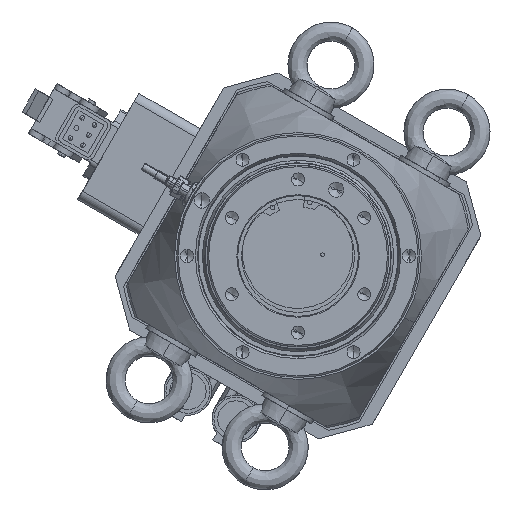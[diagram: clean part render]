
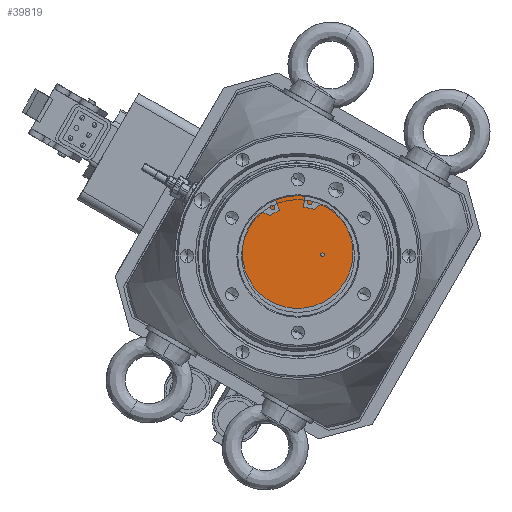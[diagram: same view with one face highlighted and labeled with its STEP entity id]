
A CAD part, front view. The second image highlights one B-rep face of the part: STEP entity #39819.
In plain terms, the highlighted planar face has unit normal (0, -1, 0).
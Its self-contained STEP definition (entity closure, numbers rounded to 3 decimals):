
#1579 = DIRECTION ( 'NONE',  ( 0., 1., 0. ) ) ;
#2160 = ORIENTED_EDGE ( 'NONE', *, *, #17254, .T. ) ;
#3389 = VERTEX_POINT ( 'NONE', #28946 ) ;
#4422 = DIRECTION ( 'NONE',  ( -0.866, 0., 0.5 ) ) ;
#10384 = CARTESIAN_POINT ( 'NONE',  ( 84.067, -247.879, 97.791 ) ) ;
#12253 = ORIENTED_EDGE ( 'NONE', *, *, #39113, .F. ) ;
#13505 = AXIS2_PLACEMENT_3D ( 'NONE', #24056, #43567, #37801 ) ;
#13736 = CARTESIAN_POINT ( 'NONE',  ( 84.067, -247.879, 97.791 ) ) ;
#14594 = DIRECTION ( 'NONE',  ( -0.866, 0., 0.5 ) ) ;
#17254 = EDGE_CURVE ( 'NONE', #36706, #42634, #48003, .T. ) ;
#17258 = VERTEX_POINT ( 'NONE', #49102 ) ;
#17450 = EDGE_LOOP ( 'NONE', ( #2160, #49158 ) ) ;
#20409 = AXIS2_PLACEMENT_3D ( 'NONE', #10384, #58333, #14594 ) ;
#21172 = DIRECTION ( 'NONE',  ( -0.866, 0., 0.5 ) ) ;
#24056 = CARTESIAN_POINT ( 'NONE',  ( 71.219, -247.879, 97.194 ) ) ;
#24765 = EDGE_LOOP ( 'NONE', ( #12253, #56279 ) ) ;
#28648 = EDGE_CURVE ( 'NONE', #42634, #36706, #55399, .T. ) ;
#28946 = CARTESIAN_POINT ( 'NONE',  ( 43.939, -247.879, 112.944 ) ) ;
#31884 = FACE_BOUND ( 'NONE', #17450, .T. ) ;
#33504 = DIRECTION ( 'NONE',  ( 0., 1., 0. ) ) ;
#35980 = AXIS2_PLACEMENT_3D ( 'NONE', #45435, #1579, #21172 ) ;
#36706 = VERTEX_POINT ( 'NONE', #49023 ) ;
#37626 = CARTESIAN_POINT ( 'NONE',  ( 83.2, -247.879, 98.291 ) ) ;
#37801 = DIRECTION ( 'NONE',  ( -0.866, 0., 0.5 ) ) ;
#39113 = EDGE_CURVE ( 'NONE', #17258, #3389, #43111, .T. ) ;
#39819 = ADVANCED_FACE ( 'NONE', ( #53258, #31884 ), #51448, .F. ) ;
#42069 = AXIS2_PLACEMENT_3D ( 'NONE', #13736, #33504, #4422 ) ;
#42634 = VERTEX_POINT ( 'NONE', #37626 ) ;
#43111 = CIRCLE ( 'NONE', #13505, 31.5 ) ;
#43567 = DIRECTION ( 'NONE',  ( 0., 1., 0. ) ) ;
#45435 = CARTESIAN_POINT ( 'NONE',  ( 71.219, -247.879, 97.194 ) ) ;
#48003 = CIRCLE ( 'NONE', #20409, 1. ) ;
#48767 = DIRECTION ( 'NONE',  ( 0., 1., 0. ) ) ;
#49023 = CARTESIAN_POINT ( 'NONE',  ( 84.933, -247.879, 97.291 ) ) ;
#49102 = CARTESIAN_POINT ( 'NONE',  ( 98.499, -247.879, 81.444 ) ) ;
#49158 = ORIENTED_EDGE ( 'NONE', *, *, #28648, .T. ) ;
#49304 = EDGE_CURVE ( 'NONE', #3389, #17258, #57463, .T. ) ;
#49379 = CARTESIAN_POINT ( 'NONE',  ( 71.219, -247.879, 97.194 ) ) ;
#51448 = PLANE ( 'NONE',  #62660 ) ;
#53258 = FACE_OUTER_BOUND ( 'NONE', #24765, .T. ) ;
#54195 = DIRECTION ( 'NONE',  ( -0.866, 0., 0.5 ) ) ;
#55399 = CIRCLE ( 'NONE', #42069, 1. ) ;
#56279 = ORIENTED_EDGE ( 'NONE', *, *, #49304, .F. ) ;
#57463 = CIRCLE ( 'NONE', #35980, 31.5 ) ;
#58333 = DIRECTION ( 'NONE',  ( 0., 1., 0. ) ) ;
#62660 = AXIS2_PLACEMENT_3D ( 'NONE', #49379, #48767, #54195 ) ;
